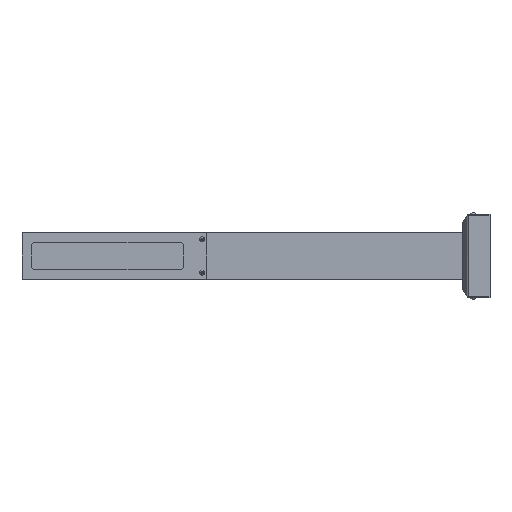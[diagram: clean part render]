
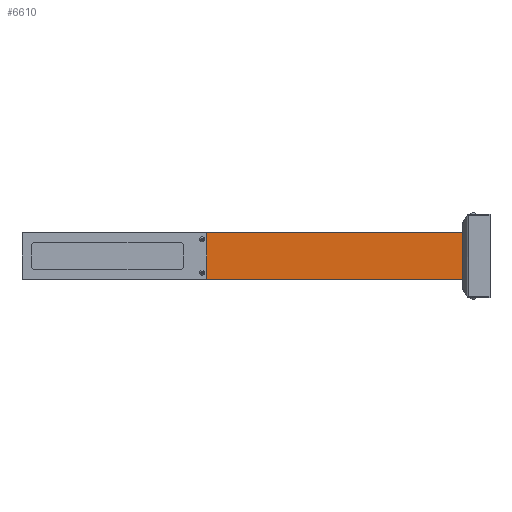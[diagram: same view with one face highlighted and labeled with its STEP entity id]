
A CAD part, left-side view. The second image highlights one B-rep face of the part: STEP entity #6610.
In plain terms, the highlighted planar face has unit normal (-1, 0, 0).
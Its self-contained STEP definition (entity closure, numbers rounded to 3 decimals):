
#528 = VERTEX_POINT ( 'NONE', #9044 ) ;
#807 = CARTESIAN_POINT ( 'NONE',  ( -50., 600., -50. ) ) ;
#1963 = LINE ( 'NONE', #807, #9445 ) ;
#2415 = CARTESIAN_POINT ( 'NONE',  ( -50., 0., -50. ) ) ;
#3569 = ORIENTED_EDGE ( 'NONE', *, *, #4584, .T. ) ;
#3694 = CARTESIAN_POINT ( 'NONE',  ( -50., 600., -50. ) ) ;
#3696 = VERTEX_POINT ( 'NONE', #3694 ) ;
#3977 = CARTESIAN_POINT ( 'NONE',  ( -50., 0., -50. ) ) ;
#4506 = ORIENTED_EDGE ( 'NONE', *, *, #4806, .F. ) ;
#4557 = DIRECTION ( 'NONE',  ( 0., -1., 0. ) ) ;
#4584 = EDGE_CURVE ( 'NONE', #3696, #12698, #1963, .T. ) ;
#4597 = LINE ( 'NONE', #2415, #13863 ) ;
#4628 = LINE ( 'NONE', #13334, #5843 ) ;
#4730 = PLANE ( 'NONE',  #5432 ) ;
#4806 = EDGE_CURVE ( 'NONE', #9221, #528, #4628, .T. ) ;
#4813 = DIRECTION ( 'NONE',  ( 0., 0., 1. ) ) ;
#5132 = DIRECTION ( 'NONE',  ( 0., -1., 0. ) ) ;
#5432 = AXIS2_PLACEMENT_3D ( 'NONE', #9032, #5928, #12300 ) ;
#5843 = VECTOR ( 'NONE', #4557, 1000. ) ;
#5928 = DIRECTION ( 'NONE',  ( 1., 0., 0. ) ) ;
#6610 = ADVANCED_FACE ( 'NONE', ( #11027 ), #4730, .F. ) ;
#7903 = EDGE_CURVE ( 'NONE', #3696, #9221, #11189, .T. ) ;
#7908 = VECTOR ( 'NONE', #4813, 1000. ) ;
#7988 = CARTESIAN_POINT ( 'NONE',  ( -50., 600., -50. ) ) ;
#9032 = CARTESIAN_POINT ( 'NONE',  ( -50., 600., -50. ) ) ;
#9044 = CARTESIAN_POINT ( 'NONE',  ( -50., 0., 50. ) ) ;
#9221 = VERTEX_POINT ( 'NONE', #13521 ) ;
#9445 = VECTOR ( 'NONE', #5132, 1000. ) ;
#10790 = EDGE_CURVE ( 'NONE', #12698, #528, #4597, .T. ) ;
#10990 = ORIENTED_EDGE ( 'NONE', *, *, #7903, .F. ) ;
#11027 = FACE_OUTER_BOUND ( 'NONE', #11932, .T. ) ;
#11189 = LINE ( 'NONE', #7988, #7908 ) ;
#11932 = EDGE_LOOP ( 'NONE', ( #13495, #4506, #10990, #3569 ) ) ;
#11968 = DIRECTION ( 'NONE',  ( 0., 0., 1. ) ) ;
#12300 = DIRECTION ( 'NONE',  ( 0., 0., -1. ) ) ;
#12698 = VERTEX_POINT ( 'NONE', #3977 ) ;
#13334 = CARTESIAN_POINT ( 'NONE',  ( -50., 600., 50. ) ) ;
#13495 = ORIENTED_EDGE ( 'NONE', *, *, #10790, .T. ) ;
#13521 = CARTESIAN_POINT ( 'NONE',  ( -50., 600., 50. ) ) ;
#13863 = VECTOR ( 'NONE', #11968, 1000. ) ;
